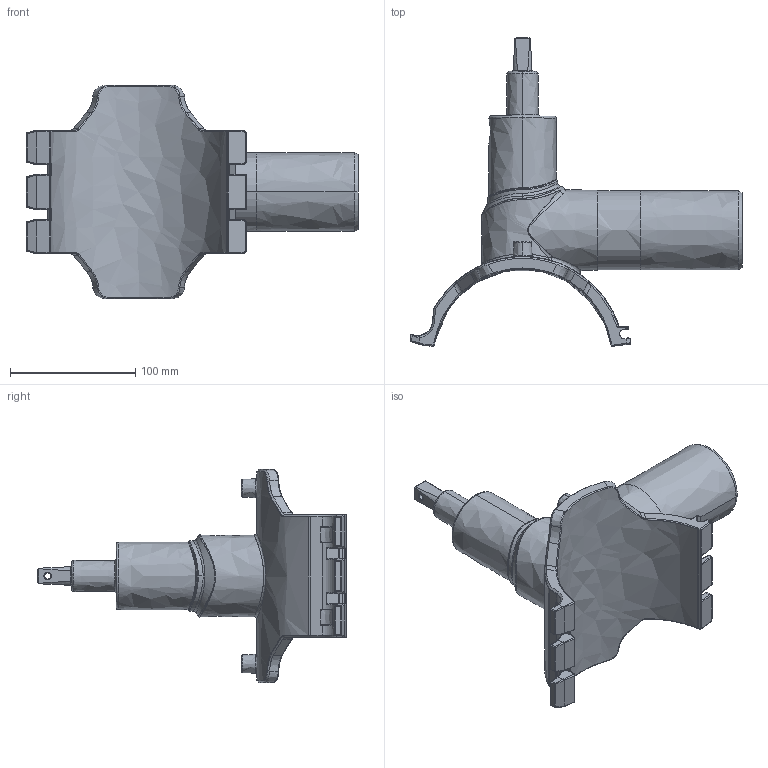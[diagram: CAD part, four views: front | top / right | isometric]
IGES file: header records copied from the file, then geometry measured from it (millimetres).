
Start section:  PTC IGES file: dav2_d140_63_01.igs
Global section: file name: dav2_d140_63_01.igs; native system: Creo Parametric by PTC Inc.; preprocessor: 2019030; author: mikulicp; organization: Unknown; date: 20210622.135758; units: millimetre
Bounding box: 264.82 x 246.31 x 170 mm (x, y, z)
Surface area: 137198.8 mm2 (no closed solid volume)
Topology: 0 solids, 0 shells, 575 faces, 2790 edges, 2784 vertices
Faces by surface type: bspline 575
